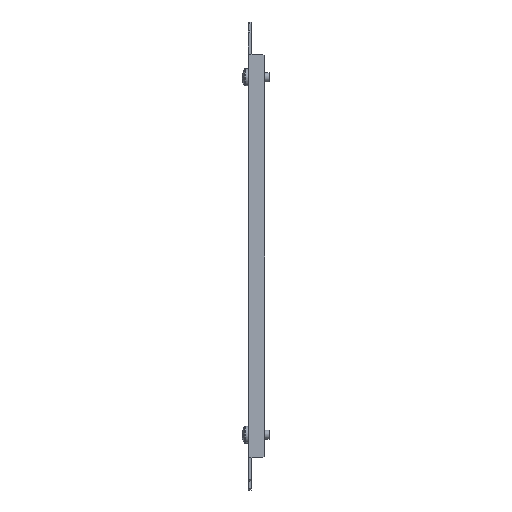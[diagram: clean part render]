
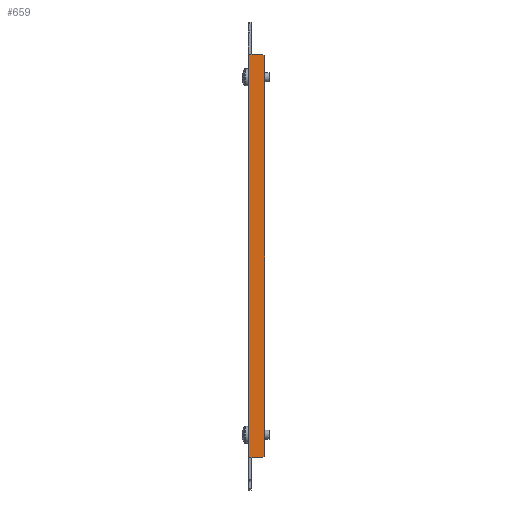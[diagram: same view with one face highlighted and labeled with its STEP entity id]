
A CAD part, left-side view. The second image highlights one B-rep face of the part: STEP entity #659.
In plain terms, the highlighted planar face has unit normal (-1, 0, 0) as drawn and (1, 0, 0) by its records, which use the part's own axes.
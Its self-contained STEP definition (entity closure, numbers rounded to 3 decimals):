
#5 = VECTOR ( 'NONE', #2167, 1000. ) ;
#24 = CARTESIAN_POINT ( 'NONE',  ( 84., -113., 0. ) ) ;
#36 = EDGE_CURVE ( 'NONE', #2786, #2853, #494, .T. ) ;
#192 = ORIENTED_EDGE ( 'NONE', *, *, #1485, .F. ) ;
#223 = ORIENTED_EDGE ( 'NONE', *, *, #36, .T. ) ;
#243 = CARTESIAN_POINT ( 'NONE',  ( 84., 113., 0. ) ) ;
#283 = DIRECTION ( 'NONE',  ( 0., 0., 1. ) ) ;
#299 = CARTESIAN_POINT ( 'NONE',  ( 84., 113., -8. ) ) ;
#322 = VERTEX_POINT ( 'NONE', #1386 ) ;
#361 = PLANE ( 'NONE',  #2632 ) ;
#374 = DIRECTION ( 'NONE',  ( -1., 0., 0. ) ) ;
#494 = LINE ( 'NONE', #1417, #819 ) ;
#535 = ORIENTED_EDGE ( 'NONE', *, *, #974, .T. ) ;
#549 = DIRECTION ( 'NONE',  ( 0., 0.707, -0.707 ) ) ;
#653 = CARTESIAN_POINT ( 'NONE',  ( 84., 112., -9. ) ) ;
#659 = ADVANCED_FACE ( 'NONE', ( #2443 ), #361, .F. ) ;
#765 = DIRECTION ( 'NONE',  ( 0., 0., -1. ) ) ;
#780 = CARTESIAN_POINT ( 'NONE',  ( 84., -112., -9. ) ) ;
#819 = VECTOR ( 'NONE', #971, 1000. ) ;
#914 = VECTOR ( 'NONE', #765, 1000. ) ;
#916 = CARTESIAN_POINT ( 'NONE',  ( 84., -113., -8. ) ) ;
#971 = DIRECTION ( 'NONE',  ( 0., -1., 0. ) ) ;
#974 = EDGE_CURVE ( 'NONE', #1871, #2709, #1400, .T. ) ;
#982 = CARTESIAN_POINT ( 'NONE',  ( 84., -113., 0. ) ) ;
#1175 = EDGE_CURVE ( 'NONE', #2372, #2786, #2915, .T. ) ;
#1284 = CARTESIAN_POINT ( 'NONE',  ( 84., 0., 0. ) ) ;
#1386 = CARTESIAN_POINT ( 'NONE',  ( 84., -113., -2.1 ) ) ;
#1400 = LINE ( 'NONE', #2573, #1484 ) ;
#1417 = CARTESIAN_POINT ( 'NONE',  ( 84., 0., 0. ) ) ;
#1436 = DIRECTION ( 'NONE',  ( 0., 1., 0. ) ) ;
#1484 = VECTOR ( 'NONE', #1436, 1000. ) ;
#1485 = EDGE_CURVE ( 'NONE', #322, #2853, #2518, .T. ) ;
#1492 = VECTOR ( 'NONE', #549, 1000. ) ;
#1570 = ORIENTED_EDGE ( 'NONE', *, *, #1639, .T. ) ;
#1598 = VERTEX_POINT ( 'NONE', #299 ) ;
#1610 = ORIENTED_EDGE ( 'NONE', *, *, #2735, .T. ) ;
#1631 = LINE ( 'NONE', #982, #914 ) ;
#1634 = CARTESIAN_POINT ( 'NONE',  ( 84., 113., 0. ) ) ;
#1639 = EDGE_CURVE ( 'NONE', #322, #1961, #1631, .T. ) ;
#1708 = CARTESIAN_POINT ( 'NONE',  ( 84., 113., -2.1 ) ) ;
#1775 = VECTOR ( 'NONE', #2854, 1000. ) ;
#1795 = ORIENTED_EDGE ( 'NONE', *, *, #2281, .T. ) ;
#1822 = VECTOR ( 'NONE', #2463, 1000. ) ;
#1857 = LINE ( 'NONE', #243, #2207 ) ;
#1871 = VERTEX_POINT ( 'NONE', #2236 ) ;
#1961 = VERTEX_POINT ( 'NONE', #916 ) ;
#1978 = EDGE_LOOP ( 'NONE', ( #535, #1795, #1610, #2108, #223, #192, #1570, #2222 ) ) ;
#2108 = ORIENTED_EDGE ( 'NONE', *, *, #1175, .T. ) ;
#2161 = CARTESIAN_POINT ( 'NONE',  ( 84., 113., -2.1 ) ) ;
#2167 = DIRECTION ( 'NONE',  ( 0., 0., 1. ) ) ;
#2207 = VECTOR ( 'NONE', #283, 1000. ) ;
#2222 = ORIENTED_EDGE ( 'NONE', *, *, #2269, .T. ) ;
#2236 = CARTESIAN_POINT ( 'NONE',  ( 84., -112., -9. ) ) ;
#2269 = EDGE_CURVE ( 'NONE', #1961, #1871, #2837, .T. ) ;
#2281 = EDGE_CURVE ( 'NONE', #2709, #1598, #2394, .T. ) ;
#2323 = CARTESIAN_POINT ( 'NONE',  ( 84., -113., 0. ) ) ;
#2372 = VERTEX_POINT ( 'NONE', #2161 ) ;
#2377 = CARTESIAN_POINT ( 'NONE',  ( 84., 113., -8. ) ) ;
#2394 = LINE ( 'NONE', #2377, #1775 ) ;
#2400 = DIRECTION ( 'NONE',  ( 0., 0., 1. ) ) ;
#2443 = FACE_OUTER_BOUND ( 'NONE', #1978, .T. ) ;
#2463 = DIRECTION ( 'NONE',  ( 0., 0., 1. ) ) ;
#2518 = LINE ( 'NONE', #24, #1822 ) ;
#2573 = CARTESIAN_POINT ( 'NONE',  ( 84., 0., -9. ) ) ;
#2632 = AXIS2_PLACEMENT_3D ( 'NONE', #1284, #374, #2400 ) ;
#2709 = VERTEX_POINT ( 'NONE', #653 ) ;
#2735 = EDGE_CURVE ( 'NONE', #1598, #2372, #1857, .T. ) ;
#2786 = VERTEX_POINT ( 'NONE', #1634 ) ;
#2837 = LINE ( 'NONE', #780, #1492 ) ;
#2853 = VERTEX_POINT ( 'NONE', #2323 ) ;
#2854 = DIRECTION ( 'NONE',  ( 0., 0.707, 0.707 ) ) ;
#2915 = LINE ( 'NONE', #1708, #5 ) ;
